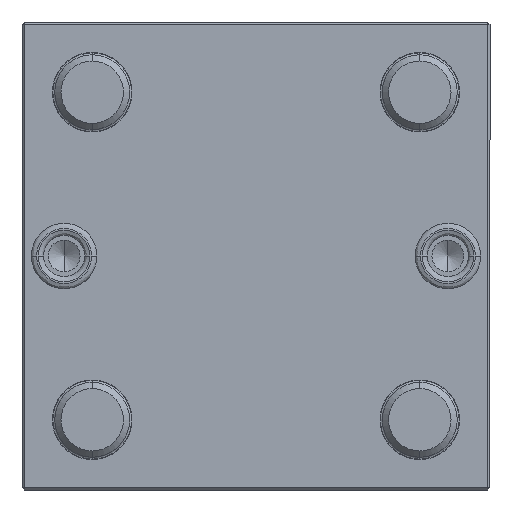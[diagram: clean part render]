
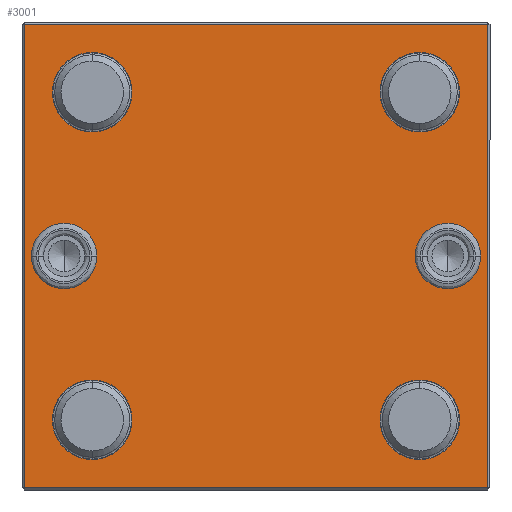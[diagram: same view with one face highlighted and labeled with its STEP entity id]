
A CAD part, front view. The second image highlights one B-rep face of the part: STEP entity #3001.
In plain terms, the highlighted planar face has unit normal (0, -1, 0).
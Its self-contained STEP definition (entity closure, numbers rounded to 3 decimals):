
#148 = CARTESIAN_POINT ( 'NONE',  ( 50., -15., -49.5 ) ) ;
#205 = ORIENTED_EDGE ( 'NONE', *, *, #3968, .T. ) ;
#252 = AXIS2_PLACEMENT_3D ( 'NONE', #1993, #1987, #1977 ) ;
#290 = VERTEX_POINT ( 'NONE', #8148 ) ;
#345 = CIRCLE ( 'NONE', #365, 8.5 ) ;
#365 = AXIS2_PLACEMENT_3D ( 'NONE', #3077, #3056, #3052 ) ;
#374 = AXIS2_PLACEMENT_3D ( 'NONE', #3251, #3236, #3234 ) ;
#376 = CARTESIAN_POINT ( 'NONE',  ( -35., -15., 35. ) ) ;
#448 = VERTEX_POINT ( 'NONE', #5713 ) ;
#532 = CARTESIAN_POINT ( 'NONE',  ( 35., -15., 35. ) ) ;
#537 = CIRCLE ( 'NONE', #8726, 7. ) ;
#555 = ORIENTED_EDGE ( 'NONE', *, *, #8230, .F. ) ;
#617 = ORIENTED_EDGE ( 'NONE', *, *, #8930, .F. ) ;
#628 = ORIENTED_EDGE ( 'NONE', *, *, #8217, .F. ) ;
#639 = VERTEX_POINT ( 'NONE', #4957 ) ;
#645 = ORIENTED_EDGE ( 'NONE', *, *, #8570, .T. ) ;
#685 = ORIENTED_EDGE ( 'NONE', *, *, #8964, .F. ) ;
#706 = ORIENTED_EDGE ( 'NONE', *, *, #7792, .T. ) ;
#741 = ORIENTED_EDGE ( 'NONE', *, *, #8541, .T. ) ;
#749 = ORIENTED_EDGE ( 'NONE', *, *, #4582, .T. ) ;
#754 = ORIENTED_EDGE ( 'NONE', *, *, #8842, .T. ) ;
#756 = CARTESIAN_POINT ( 'NONE',  ( -41., -15., 7. ) ) ;
#845 = CARTESIAN_POINT ( 'NONE',  ( 35., -15., 26.5 ) ) ;
#1112 = CIRCLE ( 'NONE', #7969, 8.5 ) ;
#1141 = VERTEX_POINT ( 'NONE', #2179 ) ;
#1198 = VERTEX_POINT ( 'NONE', #1872 ) ;
#1221 = CIRCLE ( 'NONE', #374, 8.5 ) ;
#1359 = CARTESIAN_POINT ( 'NONE',  ( 49.5, -15., 49.5 ) ) ;
#1363 = ORIENTED_EDGE ( 'NONE', *, *, #9001, .T. ) ;
#1371 = VERTEX_POINT ( 'NONE', #756 ) ;
#1488 = VERTEX_POINT ( 'NONE', #6368 ) ;
#1511 = CARTESIAN_POINT ( 'NONE',  ( -49.5, -15., -49.5 ) ) ;
#1603 = AXIS2_PLACEMENT_3D ( 'NONE', #2219, #2203, #2200 ) ;
#1872 = CARTESIAN_POINT ( 'NONE',  ( 41., -15., -7. ) ) ;
#1909 = ORIENTED_EDGE ( 'NONE', *, *, #7452, .T. ) ;
#1946 = AXIS2_PLACEMENT_3D ( 'NONE', #3611, #3581, #3564 ) ;
#1966 = DIRECTION ( 'NONE',  ( 0., 0., 1. ) ) ;
#1977 = DIRECTION ( 'NONE',  ( 0., 0., 1. ) ) ;
#1987 = DIRECTION ( 'NONE',  ( 0., 1., 0. ) ) ;
#1993 = CARTESIAN_POINT ( 'NONE',  ( -35., -15., 35. ) ) ;
#2027 = CARTESIAN_POINT ( 'NONE',  ( 49.5, -15., 50. ) ) ;
#2109 = CIRCLE ( 'NONE', #1946, 8.5 ) ;
#2123 = ORIENTED_EDGE ( 'NONE', *, *, #7962, .T. ) ;
#2179 = CARTESIAN_POINT ( 'NONE',  ( -35., -15., 43.5 ) ) ;
#2200 = DIRECTION ( 'NONE',  ( 0., 0., -1. ) ) ;
#2203 = DIRECTION ( 'NONE',  ( 0., -1., 0. ) ) ;
#2210 = VECTOR ( 'NONE', #6960, 1000. ) ;
#2219 = CARTESIAN_POINT ( 'NONE',  ( -41., -15., 0. ) ) ;
#2317 = ORIENTED_EDGE ( 'NONE', *, *, #7782, .T. ) ;
#2391 = DIRECTION ( 'NONE',  ( 0., 0., -1. ) ) ;
#2440 = DIRECTION ( 'NONE',  ( 0., -1., 0. ) ) ;
#2449 = CARTESIAN_POINT ( 'NONE',  ( 41., -15., 0. ) ) ;
#2510 = CARTESIAN_POINT ( 'NONE',  ( 35., -15., -35. ) ) ;
#2536 = EDGE_LOOP ( 'NONE', ( #685, #555 ) ) ;
#2569 = AXIS2_PLACEMENT_3D ( 'NONE', #2449, #2440, #2391 ) ;
#2775 = CIRCLE ( 'NONE', #2569, 7. ) ;
#3001 = ADVANCED_FACE ( 'NONE', ( #4298, #4257, #4276, #4289, #4246, #4237, #4218 ), #8464, .F. ) ;
#3052 = DIRECTION ( 'NONE',  ( 0., 0., 1. ) ) ;
#3056 = DIRECTION ( 'NONE',  ( 0., 1., 0. ) ) ;
#3077 = CARTESIAN_POINT ( 'NONE',  ( 35., -15., -35. ) ) ;
#3204 = VERTEX_POINT ( 'NONE', #6226 ) ;
#3205 = CIRCLE ( 'NONE', #3941, 8.5 ) ;
#3234 = DIRECTION ( 'NONE',  ( 0., 0., 1. ) ) ;
#3236 = DIRECTION ( 'NONE',  ( 0., 1., 0. ) ) ;
#3251 = CARTESIAN_POINT ( 'NONE',  ( 35., -15., 35. ) ) ;
#3564 = DIRECTION ( 'NONE',  ( 0., 0., 1. ) ) ;
#3581 = DIRECTION ( 'NONE',  ( 0., 1., 0. ) ) ;
#3611 = CARTESIAN_POINT ( 'NONE',  ( -35., -15., -35. ) ) ;
#3930 = EDGE_CURVE ( 'NONE', #5603, #7866, #1221, .T. ) ;
#3941 = AXIS2_PLACEMENT_3D ( 'NONE', #7431, #7412, #7396 ) ;
#3968 = EDGE_CURVE ( 'NONE', #448, #8708, #345, .T. ) ;
#3984 = DIRECTION ( 'NONE',  ( 0., 0., 1. ) ) ;
#4218 = FACE_BOUND ( 'NONE', #4622, .T. ) ;
#4237 = FACE_BOUND ( 'NONE', #8931, .T. ) ;
#4246 = FACE_BOUND ( 'NONE', #4367, .T. ) ;
#4257 = FACE_BOUND ( 'NONE', #5780, .T. ) ;
#4275 = DIRECTION ( 'NONE',  ( 0., 0., -1. ) ) ;
#4276 = FACE_BOUND ( 'NONE', #2536, .T. ) ;
#4289 = FACE_BOUND ( 'NONE', #8442, .T. ) ;
#4298 = FACE_OUTER_BOUND ( 'NONE', #5865, .T. ) ;
#4300 = DIRECTION ( 'NONE',  ( 0., -1., 0. ) ) ;
#4356 = CARTESIAN_POINT ( 'NONE',  ( -41., -15., 0. ) ) ;
#4367 = EDGE_LOOP ( 'NONE', ( #741, #749 ) ) ;
#4582 = EDGE_CURVE ( 'NONE', #1488, #1141, #8418, .T. ) ;
#4622 = EDGE_LOOP ( 'NONE', ( #2317, #205 ) ) ;
#4687 = DIRECTION ( 'NONE',  ( 0., 1., 0. ) ) ;
#4692 = DIRECTION ( 'NONE',  ( 0., 0., -1. ) ) ;
#4715 = DIRECTION ( 'NONE',  ( 0., -1., 0. ) ) ;
#4724 = CARTESIAN_POINT ( 'NONE',  ( 41., -15., 0. ) ) ;
#4957 = CARTESIAN_POINT ( 'NONE',  ( -41., -15., -7. ) ) ;
#4969 = VERTEX_POINT ( 'NONE', #1511 ) ;
#5248 = AXIS2_PLACEMENT_3D ( 'NONE', #4356, #4300, #4275 ) ;
#5284 = CARTESIAN_POINT ( 'NONE',  ( 35., -15., -26.5 ) ) ;
#5385 = LINE ( 'NONE', #148, #5876 ) ;
#5386 = CARTESIAN_POINT ( 'NONE',  ( 50., -15., 50. ) ) ;
#5603 = VERTEX_POINT ( 'NONE', #845 ) ;
#5713 = CARTESIAN_POINT ( 'NONE',  ( 35., -15., -43.5 ) ) ;
#5780 = EDGE_LOOP ( 'NONE', ( #617, #628 ) ) ;
#5835 = AXIS2_PLACEMENT_3D ( 'NONE', #5386, #4687, #3984 ) ;
#5865 = EDGE_LOOP ( 'NONE', ( #1909, #1363, #2123, #706 ) ) ;
#5876 = VECTOR ( 'NONE', #8902, 1000. ) ;
#6205 = CIRCLE ( 'NONE', #5248, 7. ) ;
#6226 = CARTESIAN_POINT ( 'NONE',  ( -49.5, -15., 49.5 ) ) ;
#6368 = CARTESIAN_POINT ( 'NONE',  ( -35., -15., 26.5 ) ) ;
#6439 = CARTESIAN_POINT ( 'NONE',  ( -35., -15., -43.5 ) ) ;
#6485 = ORIENTED_EDGE ( 'NONE', *, *, #7656, .T. ) ;
#6945 = CARTESIAN_POINT ( 'NONE',  ( 49.5, -15., -49.5 ) ) ;
#6960 = DIRECTION ( 'NONE',  ( -1., 0., 0. ) ) ;
#7027 = CARTESIAN_POINT ( 'NONE',  ( 50., -15., 49.5 ) ) ;
#7193 = LINE ( 'NONE', #7027, #2210 ) ;
#7242 = CIRCLE ( 'NONE', #8974, 8.5 ) ;
#7285 = LINE ( 'NONE', #7981, #8447 ) ;
#7396 = DIRECTION ( 'NONE',  ( 0., 0., 1. ) ) ;
#7412 = DIRECTION ( 'NONE',  ( 0., 1., 0. ) ) ;
#7431 = CARTESIAN_POINT ( 'NONE',  ( -35., -15., -35. ) ) ;
#7452 = EDGE_CURVE ( 'NONE', #4969, #8021, #5385, .T. ) ;
#7480 = CARTESIAN_POINT ( 'NONE',  ( 35., -15., 43.5 ) ) ;
#7509 = DIRECTION ( 'NONE',  ( 0., 0., 1. ) ) ;
#7516 = DIRECTION ( 'NONE',  ( 0., 1., 0. ) ) ;
#7527 = VERTEX_POINT ( 'NONE', #8559 ) ;
#7656 = EDGE_CURVE ( 'NONE', #7866, #5603, #7242, .T. ) ;
#7686 = DIRECTION ( 'NONE',  ( 0., 0., -1. ) ) ;
#7782 = EDGE_CURVE ( 'NONE', #8708, #448, #8802, .T. ) ;
#7792 = EDGE_CURVE ( 'NONE', #3204, #4969, #7285, .T. ) ;
#7861 = DIRECTION ( 'NONE',  ( 0., 0., 1. ) ) ;
#7866 = VERTEX_POINT ( 'NONE', #7480 ) ;
#7878 = DIRECTION ( 'NONE',  ( 0., 1., 0. ) ) ;
#7962 = EDGE_CURVE ( 'NONE', #8373, #3204, #7193, .T. ) ;
#7969 = AXIS2_PLACEMENT_3D ( 'NONE', #376, #8158, #8155 ) ;
#7981 = CARTESIAN_POINT ( 'NONE',  ( -49.5, -15., 50. ) ) ;
#8021 = VERTEX_POINT ( 'NONE', #6945 ) ;
#8120 = VERTEX_POINT ( 'NONE', #6439 ) ;
#8148 = CARTESIAN_POINT ( 'NONE',  ( -35., -15., -26.5 ) ) ;
#8155 = DIRECTION ( 'NONE',  ( 0., 0., 1. ) ) ;
#8158 = DIRECTION ( 'NONE',  ( 0., 1., 0. ) ) ;
#8217 = EDGE_CURVE ( 'NONE', #7527, #1198, #537, .T. ) ;
#8230 = EDGE_CURVE ( 'NONE', #1371, #639, #6205, .T. ) ;
#8238 = VECTOR ( 'NONE', #1966, 1000. ) ;
#8369 = CIRCLE ( 'NONE', #1603, 7. ) ;
#8373 = VERTEX_POINT ( 'NONE', #1359 ) ;
#8375 = ORIENTED_EDGE ( 'NONE', *, *, #3930, .T. ) ;
#8418 = CIRCLE ( 'NONE', #252, 8.5 ) ;
#8442 = EDGE_LOOP ( 'NONE', ( #645, #754 ) ) ;
#8447 = VECTOR ( 'NONE', #7686, 1000. ) ;
#8464 = PLANE ( 'NONE',  #5835 ) ;
#8541 = EDGE_CURVE ( 'NONE', #1141, #1488, #1112, .T. ) ;
#8559 = CARTESIAN_POINT ( 'NONE',  ( 41., -15., 7. ) ) ;
#8570 = EDGE_CURVE ( 'NONE', #290, #8120, #3205, .T. ) ;
#8708 = VERTEX_POINT ( 'NONE', #5284 ) ;
#8715 = LINE ( 'NONE', #2027, #8238 ) ;
#8726 = AXIS2_PLACEMENT_3D ( 'NONE', #4724, #4715, #4692 ) ;
#8802 = CIRCLE ( 'NONE', #8973, 8.5 ) ;
#8842 = EDGE_CURVE ( 'NONE', #8120, #290, #2109, .T. ) ;
#8902 = DIRECTION ( 'NONE',  ( 1., 0., 0. ) ) ;
#8930 = EDGE_CURVE ( 'NONE', #1198, #7527, #2775, .T. ) ;
#8931 = EDGE_LOOP ( 'NONE', ( #6485, #8375 ) ) ;
#8964 = EDGE_CURVE ( 'NONE', #639, #1371, #8369, .T. ) ;
#8973 = AXIS2_PLACEMENT_3D ( 'NONE', #2510, #7516, #7509 ) ;
#8974 = AXIS2_PLACEMENT_3D ( 'NONE', #532, #7878, #7861 ) ;
#9001 = EDGE_CURVE ( 'NONE', #8021, #8373, #8715, .T. ) ;
